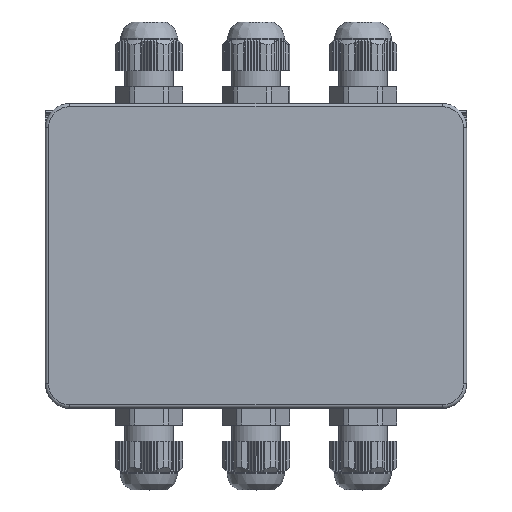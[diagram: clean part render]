
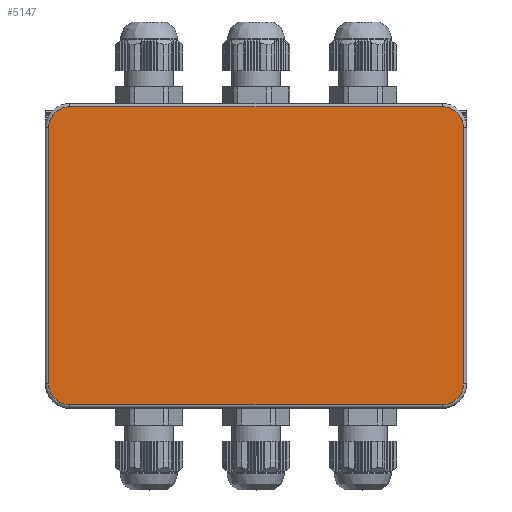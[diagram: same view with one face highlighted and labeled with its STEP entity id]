
A CAD part, top view. The second image highlights one B-rep face of the part: STEP entity #5147.
In plain terms, the highlighted planar face has unit normal (0, 0, 1).
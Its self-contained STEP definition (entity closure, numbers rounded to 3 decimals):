
#198=PLANE('',#5552);
#514=FACE_OUTER_BOUND('',#839,.T.);
#839=EDGE_LOOP('',(#3625,#3626,#3627,#3628,#3629,#3630,#3631,#3632));
#1266=LINE('',#7786,#1666);
#1267=LINE('',#7790,#1667);
#1268=LINE('',#7794,#1668);
#1269=LINE('',#7798,#1669);
#1666=VECTOR('',#6219,1000.);
#1667=VECTOR('',#6222,1000.);
#1668=VECTOR('',#6225,1000.);
#1669=VECTOR('',#6228,1000.);
#2070=CIRCLE('',#5553,6.5);
#2071=CIRCLE('',#5554,6.5);
#2072=CIRCLE('',#5555,6.5);
#2073=CIRCLE('',#5556,6.5);
#2328=VERTEX_POINT('',#7784);
#2329=VERTEX_POINT('',#7785);
#2330=VERTEX_POINT('',#7787);
#2331=VERTEX_POINT('',#7789);
#2332=VERTEX_POINT('',#7791);
#2333=VERTEX_POINT('',#7793);
#2334=VERTEX_POINT('',#7795);
#2335=VERTEX_POINT('',#7797);
#2862=EDGE_CURVE('',#2328,#2329,#1266,.T.);
#2863=EDGE_CURVE('',#2329,#2330,#2070,.T.);
#2864=EDGE_CURVE('',#2330,#2331,#1267,.T.);
#2865=EDGE_CURVE('',#2331,#2332,#2071,.T.);
#2866=EDGE_CURVE('',#2332,#2333,#1268,.T.);
#2867=EDGE_CURVE('',#2333,#2334,#2072,.T.);
#2868=EDGE_CURVE('',#2334,#2335,#1269,.T.);
#2869=EDGE_CURVE('',#2335,#2328,#2073,.T.);
#3625=ORIENTED_EDGE('',*,*,#2862,.T.);
#3626=ORIENTED_EDGE('',*,*,#2863,.T.);
#3627=ORIENTED_EDGE('',*,*,#2864,.T.);
#3628=ORIENTED_EDGE('',*,*,#2865,.T.);
#3629=ORIENTED_EDGE('',*,*,#2866,.T.);
#3630=ORIENTED_EDGE('',*,*,#2867,.T.);
#3631=ORIENTED_EDGE('',*,*,#2868,.T.);
#3632=ORIENTED_EDGE('',*,*,#2869,.T.);
#5147=ADVANCED_FACE('',(#514),#198,.T.);
#5552=AXIS2_PLACEMENT_3D('',#7783,#6217,#6218);
#5553=AXIS2_PLACEMENT_3D('',#7788,#6220,#6221);
#5554=AXIS2_PLACEMENT_3D('',#7792,#6223,#6224);
#5555=AXIS2_PLACEMENT_3D('',#7796,#6226,#6227);
#5556=AXIS2_PLACEMENT_3D('',#7799,#6229,#6230);
#6217=DIRECTION('center_axis',(0.,0.,1.));
#6218=DIRECTION('ref_axis',(1.,0.,0.));
#6219=DIRECTION('',(0.,-1.,0.));
#6220=DIRECTION('center_axis',(0.,0.,1.));
#6221=DIRECTION('ref_axis',(1.,0.,0.));
#6222=DIRECTION('',(1.,0.,0.));
#6223=DIRECTION('center_axis',(0.,0.,1.));
#6224=DIRECTION('ref_axis',(1.,0.,0.));
#6225=DIRECTION('',(0.,1.,0.));
#6226=DIRECTION('center_axis',(0.,0.,1.));
#6227=DIRECTION('ref_axis',(1.,0.,0.));
#6228=DIRECTION('',(-1.,0.,0.));
#6229=DIRECTION('center_axis',(0.,0.,1.));
#6230=DIRECTION('ref_axis',(1.,0.,0.));
#7783=CARTESIAN_POINT('Origin',(-57.5,-39.5,15.));
#7784=CARTESIAN_POINT('',(-64.,39.5,15.));
#7785=CARTESIAN_POINT('',(-64.,-39.5,15.));
#7786=CARTESIAN_POINT('',(-64.,-39.5,15.));
#7787=CARTESIAN_POINT('',(-57.5,-46.,15.));
#7788=CARTESIAN_POINT('Origin',(-57.5,-39.5,15.));
#7789=CARTESIAN_POINT('',(57.5,-46.,15.));
#7790=CARTESIAN_POINT('',(57.5,-46.,15.));
#7791=CARTESIAN_POINT('',(64.,-39.5,15.));
#7792=CARTESIAN_POINT('Origin',(57.5,-39.5,15.));
#7793=CARTESIAN_POINT('',(64.,39.5,15.));
#7794=CARTESIAN_POINT('',(64.,39.5,15.));
#7795=CARTESIAN_POINT('',(57.5,46.,15.));
#7796=CARTESIAN_POINT('Origin',(57.5,39.5,15.));
#7797=CARTESIAN_POINT('',(-57.5,46.,15.));
#7798=CARTESIAN_POINT('',(-57.5,46.,15.));
#7799=CARTESIAN_POINT('Origin',(-57.5,39.5,15.));
